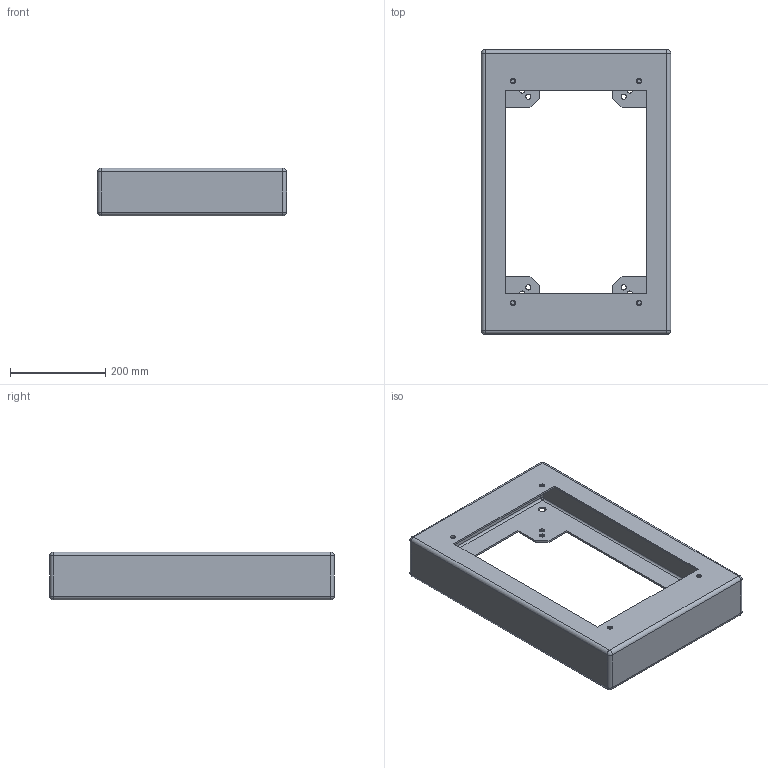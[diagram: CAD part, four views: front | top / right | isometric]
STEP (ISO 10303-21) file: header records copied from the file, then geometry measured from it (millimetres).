
FILE_DESCRIPTION(('STEP AP242'), '1');
FILE_NAME('2810 Öîêîëü ñåéñìîñòîéêèé', '', ('UNSPECIFIED'), ('UNSPECIFIED'), 'C3D Converter', 'C3D Toolkit', '');
FILE_SCHEMA(('AP242_MANAGED_MODEL_BASED_3D_ENGINEERING_MIM_LF { 1 0 10303 442 1 1 4 }'));
Length unit declared in the file: millimetre
Products named in the file (1): 2810.60.40
Bounding box: 397 x 597 x 100 mm (x, y, z)
Volume: 1557623.2 mm3; surface area: 793402.9 mm2
Topology: 1 solids, 1 shells, 141 faces, 339 edges, 194 vertices
Faces by surface type: plane 64, cylinder 44, cone 17, sphere 16
Full cylindrical faces by diameter (mm): 8.376 x4, 11 x12, 16 x4
Entity records: 6792 total; most frequent: CARTESIAN_POINT 2556, DIRECTION 626, ORIENTED_EDGE 570, EDGE_CURVE 285, AXIS2_PLACEMENT_3D 247, EDGE_LOOP 222, VERTEX_POINT 193, FACE_BOUND 156
